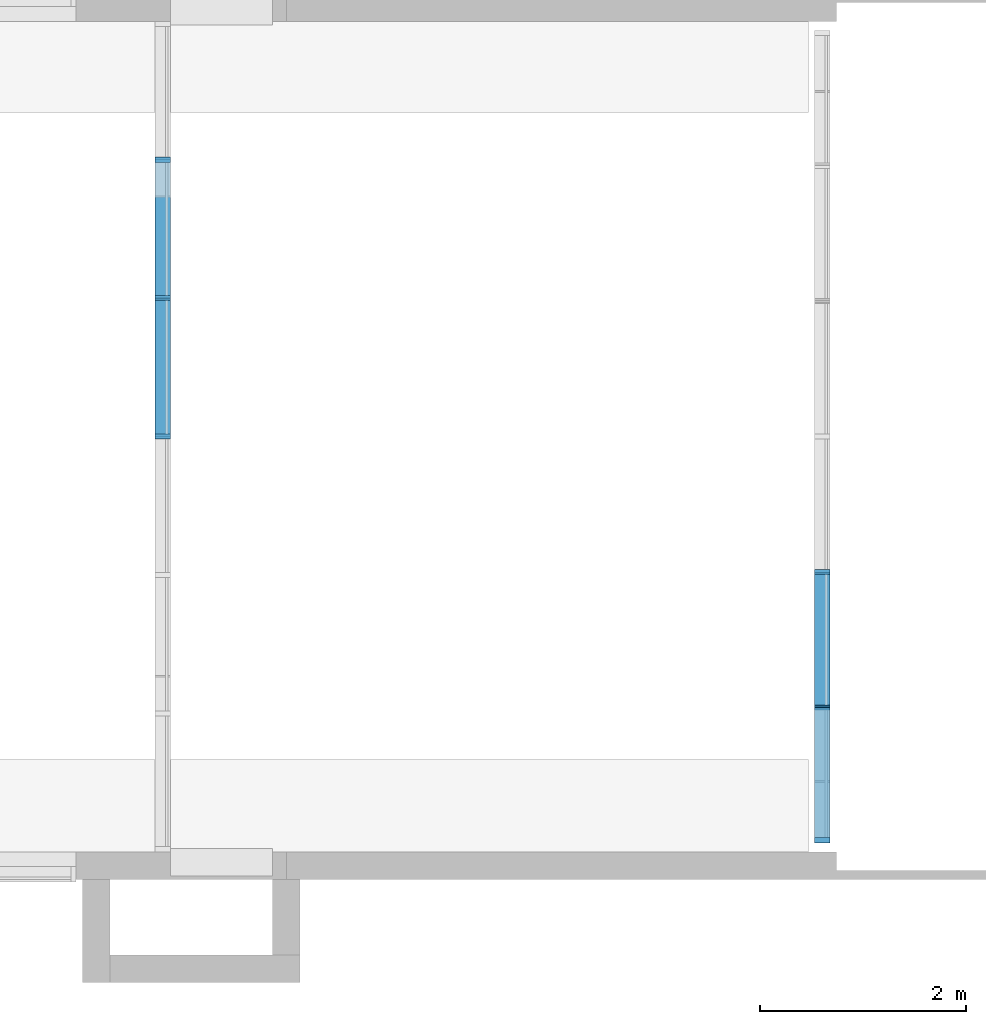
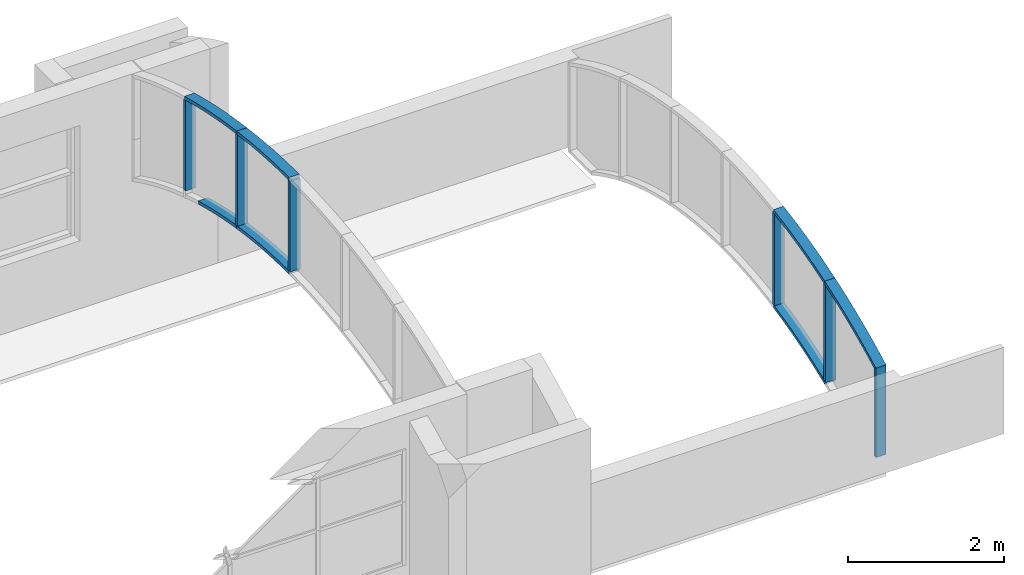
# One storey, part 4 of 14: 16 members, 3 elements without a shape of their own.
"""IFC2X3 building model written with IfcOpenShell, lengths in metres."""

from ifc_helpers import new_model, entity, si_unit, converted_unit, frame, frame_2d, origin, place, context, project, spatial, polyline, circle_curve, parameter, trimmed, segment, composite_curve, outline, extrude, source, transform, mapped, material, type_object, type_shapes, element, aggregate, save


model = new_model("IFC2X3")

# Units and contexts
model_context = context("Model", 3, precision=1e-09, world=origin())
plan_context = context("Plan", 3, precision=1e-09, world=origin())
ifc_project = project(units=[si_unit("LENGTHUNIT", "METRE"), si_unit("AREAUNIT", "SQUARE_METRE"), si_unit("VOLUMEUNIT", "CUBIC_METRE"), converted_unit("PLANEANGLEUNIT", "DEGREE", entity("IfcRatioMeasure", 0.01745329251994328), si_unit("PLANEANGLEUNIT", "RADIAN"), dimensions=[0, 0, 0, 0, 0, 0, 0]), si_unit("TIMEUNIT", "SECOND")], contexts=[model_context, plan_context])

# Site, building, storey
site_placement = place(None, origin())
site = spatial("IfcSite", under=ifc_project, at=site_placement, Name="Default", CompositionType="ELEMENT")
building_placement = place(site_placement, origin())
building = spatial("IfcBuilding", under=site, at=building_placement, CompositionType="ELEMENT")
storey_placement = place(building_placement, frame((0.0, 0.0, 9.25000000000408)))
storey = spatial("IfcBuildingStorey", under=building, at=storey_placement, Name="Roof - Main", CompositionType="ELEMENT", Elevation=9.25000000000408)

# Curtain wall, members
curtain_wall_1_placement = place(storey_placement, origin())
curtain_wall_1 = element("IfcCurtainWall", 1, at=curtain_wall_1_placement, inside=storey, Name="Curtain Wall:Storefront", ObjectType="Curtain Wall:Storefront")
ifc_material = material(Name="Metal - Aluminium")
member_type_1 = type_object("IfcMemberType", Name="50 x 150mm", PredefinedType="MULLION")
shared_shape_1 = source(origin(), model_context, "Body", "SweptSolid", [
    extrude(outline(polyline([(-0.6913336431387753, -0.025), (0.7063048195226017, -0.025), (0.6763624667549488, 0.025), (-0.6913336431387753, 0.025), (-0.6913336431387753, -0.025)])), frame((-0.025, -0.07499999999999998, -0.6913336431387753), z_axis=(0.0, 1.0, 0.0), x_axis=(0.0, 0.0, -1.0)), (0.0, 0.0, 1.0), 0.15),
])
type_shapes(member_type_1, [shared_shape_1])
member_1_placement = place(storey_placement, frame((-15.23000000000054, 27.76009600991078, 0.0), z_axis=(0.0, 0.0, -1.0), x_axis=(0.0, -1.0, 0.0)))
member_1 = element("IfcMember", 2, at=member_1_placement, type_object=member_type_1, material=ifc_material, Name="Rectangular Mullion:50 x 150mm:50 x 150mm", ObjectType="50 x 150mm", context=model_context, shape_type="MappedRepresentation", body=[
    mapped(shared_shape_1, transform((0.0, 0.0, 0.0), scale=1.0)),
])
member_type_2 = type_object("IfcMemberType", Name="50 x 150mm", PredefinedType="MULLION")
shared_shape_2 = source(origin(), model_context, "Body", "SweptSolid", [
    extrude(outline(composite_curve([segment(polyline([(-0.7207281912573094, -0.02466761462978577), (0.7121542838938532, -0.02466761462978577)]), True, "CONTINUOUS"), segment(trimmed(circle_curve(frame_2d((-7.465010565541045, 1.312050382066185), x_axis=(0.9491835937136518, -0.3147229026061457)), 8.285700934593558), [parameter(9.060082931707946)], [parameter(9.29030803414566)], True, "PARAMETER"), True, "CONTINUOUS"), segment(polyline([(0.7174594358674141, 0.008200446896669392), (0.7188196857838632, 0.01676570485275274)]), True, "CONTINUOUS"), segment(polyline([(0.7188196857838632, 0.01676570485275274), (0.7201709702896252, 0.02533238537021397)]), True, "CONTINUOUS"), segment(polyline([(0.7201709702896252, 0.02533238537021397), (-0.7109785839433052, 0.02533238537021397)]), True, "CONTINUOUS"), segment(trimmed(circle_curve(frame_2d((-7.432325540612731, 1.309991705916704), x_axis=(0.9999999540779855, 0.0003030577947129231)), 6.843015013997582), [parameter(348.8666938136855)], [parameter(349.1621254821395)], True, "PARAMETER"), False, "CONTINUOUS"), segment(polyline([(-0.7176919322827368, -0.009307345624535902), (-0.7192056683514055, -0.01698834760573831)]), True, "CONTINUOUS"), segment(polyline([(-0.7192056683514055, -0.01698834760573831), (-0.7207281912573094, -0.02466761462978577)]), True, "CONTINUOUS")], self_intersect=False)), frame((0.0003323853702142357, -0.07499999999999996, -0.7667538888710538), z_axis=(0.0, 1.0, 0.0), x_axis=(0.0, 0.0, -1.0)), (0.0, 0.0, 1.0), 0.15),
])
type_shapes(member_type_2, [shared_shape_2])
member_2_placement = place(storey_placement, frame((-15.23000000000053, 30.38353200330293, 0.7475298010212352), z_axis=(0.0, 0.0, -1.0), x_axis=(0.0, -1.0, 0.0)))
member_2 = element("IfcMember", 3, at=member_2_placement, type_object=member_type_2, material=ifc_material, Name="Rectangular Mullion:50 x 150mm:50 x 150mm", ObjectType="50 x 150mm", context=model_context, shape_type="MappedRepresentation", body=[
    mapped(shared_shape_2, transform((0.0, 0.0, 0.0), scale=1.0)),
])
member_type_3 = type_object("IfcMemberType", Name="50 x 150mm", PredefinedType="MULLION")
shared_shape_3 = source(origin(), model_context, "Body", "SweptSolid", [
    extrude(outline(composite_curve([segment(polyline([(-0.7626003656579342, -0.02433269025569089), (0.7451520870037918, -0.02433269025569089)]), True, "CONTINUOUS"), segment(trimmed(circle_curve(frame_2d((-7.105875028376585, 2.624103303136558), x_axis=(0.8815533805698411, -0.4720843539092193)), 8.285700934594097), [parameter(9.528566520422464)], [parameter(9.825595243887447)], True, "PARAMETER"), True, "CONTINUOUS"), segment(polyline([(0.7587763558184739, 0.01640343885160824), (0.7603105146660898, 0.02103492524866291)]), True, "CONTINUOUS"), segment(polyline([(0.7603105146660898, 0.02103492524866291), (0.7618419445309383, 0.02566730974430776)]), True, "CONTINUOUS"), segment(polyline([(0.7618419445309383, 0.02566730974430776), (-0.7418647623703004, 0.02566730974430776)]), True, "CONTINUOUS"), segment(trimmed(circle_curve(frame_2d((-7.073190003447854, 2.622044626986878), x_axis=(0.9812390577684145, -0.1927949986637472)), 6.843015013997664), [parameter(348.4167488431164)], [parameter(348.8181764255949)], True, "PARAMETER"), False, "CONTINUOUS"), segment(polyline([(-0.7602108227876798, -0.01862732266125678), (-0.7614049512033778, -0.02148028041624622)]), True, "CONTINUOUS"), segment(polyline([(-0.7614049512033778, -0.02148028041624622), (-0.7626003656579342, -0.0243326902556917)]), True, "CONTINUOUS")], self_intersect=False)), frame((0.0006673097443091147, -0.07499999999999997, -0.8063380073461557), z_axis=(0.0, 1.0, 0.0), x_axis=(0.0, 0.0, -1.0)), (0.0, 0.0, 1.0), 0.15),
])
type_shapes(member_type_3, [shared_shape_3])
member_3_placement = place(storey_placement, frame((-15.23000000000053, 29.07181400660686, 0.3488101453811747), z_axis=(0.0, 0.0, -1.0), x_axis=(0.0, -1.0, 0.0)))
member_3 = element("IfcMember", 4, at=member_3_placement, type_object=member_type_3, material=ifc_material, Name="Rectangular Mullion:50 x 150mm:50 x 150mm", ObjectType="50 x 150mm", context=model_context, shape_type="MappedRepresentation", body=[
    mapped(shared_shape_3, transform((0.0, 0.0, 0.0), scale=1.0)),
])
member_type_4 = type_object("IfcMemberType", Name="50 x 150mm", PredefinedType="MULLION")
shared_shape_4 = source(origin(), model_context, "Body", "SweptSolid", [
    extrude(outline(composite_curve([segment(polyline([(-0.0846862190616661, -0.7017231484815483), (-0.0346862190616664, -0.7017231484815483)]), True, "CONTINUOUS"), segment(trimmed(circle_curve(frame_2d((8.251014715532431, -0.7017231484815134), x_axis=(-0.985331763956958, 0.1706496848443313)), 8.285700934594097), [parameter(0.2072769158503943)], [parameter(9.825595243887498)], True, "PARAMETER"), False, "CONTINUOUS"), segment(polyline([(0.0817886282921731, 0.6826847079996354), (0.03758380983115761, 0.7207615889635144)]), True, "CONTINUOUS"), segment(trimmed(circle_curve(frame_2d((8.251014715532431, -0.7017231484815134), x_axis=(-0.985331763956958, 0.1706496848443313)), 8.335700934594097), [parameter(3.562221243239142e-13)], [parameter(9.825595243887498)], True, "PARAMETER"), True, "CONTINUOUS")], self_intersect=False)), frame((-0.08596521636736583, -0.07499999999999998, -0.7166029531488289), z_axis=(0.0, 1.0, 0.0), x_axis=(-0.985331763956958, 0.0, 0.1706496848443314)), (0.0, 0.0, 1.0), 0.15),
])
type_shapes(member_type_4, [shared_shape_4])
member_4_placement = place(storey_placement, frame((-15.23000000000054, 27.76009600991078, 1.397638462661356), z_axis=(0.0, -0.8815533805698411, -0.4720843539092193), x_axis=(0.0, -0.4720843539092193, 0.8815533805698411)))
member_4 = element("IfcMember", 5, at=member_4_placement, type_object=member_type_4, material=ifc_material, Name="Rectangular Mullion:50 x 150mm:50 x 150mm", ObjectType="50 x 150mm", context=model_context, shape_type="MappedRepresentation", body=[
    mapped(shared_shape_4, transform((0.0, 0.0, 0.0), scale=1.0)),
])
member_type_5 = type_object("IfcMemberType", Name="50 x 150mm", PredefinedType="MULLION")
shared_shape_5 = source(origin(), model_context, "Body", "SweptSolid", [
    extrude(outline(composite_curve([segment(polyline([(-0.07950557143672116, -0.6708268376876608), (-0.02950557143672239, -0.6708268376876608)]), True, "CONTINUOUS"), segment(trimmed(circle_curve(frame_2d((8.256195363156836, -0.6708268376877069), x_axis=(-0.9868830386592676, 0.1614368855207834)), 8.285700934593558), [parameter(3.562221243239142e-13)], [parameter(9.29030803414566)], True, "PARAMETER"), False, "CONTINUOUS"), segment(polyline([(0.0791776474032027, 0.6667909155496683), (0.02983349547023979, 0.6748627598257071)]), True, "CONTINUOUS"), segment(trimmed(circle_curve(frame_2d((8.256195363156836, -0.6708268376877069), x_axis=(-0.9868830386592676, 0.1614368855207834)), 8.335700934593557), [parameter(3.562221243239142e-13)], [parameter(9.29030803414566)], True, "PARAMETER"), True, "CONTINUOUS")], self_intersect=False)), frame((-0.07950557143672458, -0.07499999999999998, -0.6708268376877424), z_axis=(0.0, 1.0, 0.0), x_axis=(-0.9868830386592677, 0.0, 0.161436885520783)), (0.0, 0.0, 1.0), 0.1499999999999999),
])
type_shapes(member_type_5, [shared_shape_5])
member_5_placement = place(storey_placement, frame((-15.23000000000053, 29.07181400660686, 1.961383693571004), z_axis=(0.0, -0.9491835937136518, -0.3147229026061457), x_axis=(0.0, -0.3147229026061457, 0.9491835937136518)))
member_5 = element("IfcMember", 6, at=member_5_placement, type_object=member_type_5, material=ifc_material, Name="Rectangular Mullion:50 x 150mm:50 x 150mm", ObjectType="50 x 150mm", context=model_context, shape_type="MappedRepresentation", body=[
    mapped(shared_shape_5, transform((0.0, 0.0, 0.0), scale=1.0)),
])
member_type_6 = type_object("IfcMemberType", Name="50 x 150mm", PredefinedType="MULLION")
shared_shape_6 = source(origin(), model_context, "Body", "SweptSolid", [
    extrude(outline(composite_curve([segment(polyline([(0.04442789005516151, -0.6844999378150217), (0.09442789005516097, -0.6844999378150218)]), True, "CONTINUOUS"), segment(trimmed(circle_curve(frame_2d((-6.748587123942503, -0.684499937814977), x_axis=(0.9796339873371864, 0.2007915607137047)), 6.843015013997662), [parameter(348.4167488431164)], [parameter(359.9999999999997)], True, "PARAMETER"), True, "CONTINUOUS"), segment(polyline([(-0.0449370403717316, 0.6895197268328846), (-0.09391873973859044, 0.6794801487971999)]), True, "CONTINUOUS"), segment(trimmed(circle_curve(frame_2d((-6.748587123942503, -0.684499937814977), x_axis=(0.9796339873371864, 0.2007915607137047)), 6.793015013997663), [parameter(348.4167488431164)], [parameter(359.9999999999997)], True, "PARAMETER"), False, "CONTINUOUS")], self_intersect=False)), frame((0.04442789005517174, -0.07499999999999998, -0.6844999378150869), z_axis=(0.0, 1.0, 0.0), x_axis=(-0.9796339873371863, 0.0, -0.2007915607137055)), (0.0, 0.0, 1.0), 0.1499999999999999),
])
type_shapes(member_type_6, [shared_shape_6])
member_6_placement = place(storey_placement, frame((-15.23000000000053, 30.38353200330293, 0.7475298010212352), z_axis=(0.0, 0.9812390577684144, 0.1927949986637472), x_axis=(0.0, 0.1927949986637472, -0.9812390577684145)))
member_6 = element("IfcMember", 7, at=member_6_placement, type_object=member_type_6, material=ifc_material, Name="Rectangular Mullion:50 x 150mm:50 x 150mm", ObjectType="50 x 150mm", context=model_context, shape_type="MappedRepresentation", body=[
    mapped(shared_shape_6, transform((0.0, 0.0, 0.0), scale=1.0)),
])
aggregate(curtain_wall_1, [member_1, member_2, member_3, member_4, member_5, member_6])

curtain_wall_2_placement = place(storey_placement, origin())
curtain_wall_2 = element("IfcCurtainWall", 8, at=curtain_wall_2_placement, inside=storey, Name="Curtain Wall:Storefront", ObjectType="Curtain Wall:Storefront")
member_type_7 = type_object("IfcMemberType", Name="50 x 150mm", PredefinedType="MULLION")
shared_shape_7 = source(origin(), model_context, "Body", "SweptSolid", [
    extrude(outline(composite_curve([segment(polyline([(-0.7084224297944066, -0.02521624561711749), (0.715674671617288, -0.02521624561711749)]), True, "CONTINUOUS"), segment(trimmed(circle_curve(frame_2d((-9.329808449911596, -1.341126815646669), x_axis=(1.0, 1.609420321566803e-05)), 10.13130553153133), [parameter(7.462058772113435)], [parameter(7.567102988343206)], True, "PARAMETER"), True, "CONTINUOUS"), segment(polyline([(0.7132452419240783, -0.006801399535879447), (0.7111341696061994, 0.008992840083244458)]), True, "CONTINUOUS"), segment(polyline([(0.7111341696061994, 0.008992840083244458), (0.7089982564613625, 0.02478375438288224)]), True, "CONTINUOUS"), segment(polyline([(0.7089982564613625, 0.02478375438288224), (-0.7162064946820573, 0.02478375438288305)]), True, "CONTINUOUS"), segment(trimmed(circle_curve(frame_2d((-9.325491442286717, -1.341126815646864), x_axis=(0.9636636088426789, 0.2671187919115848)), 8.71696615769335), [parameter(353.407383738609)], [parameter(353.5222610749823)], True, "PARAMETER"), False, "CONTINUOUS"), segment(polyline([(-0.7134851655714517, 0.007519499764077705), (-0.710938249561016, -0.008845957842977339)]), True, "CONTINUOUS"), segment(polyline([(-0.710938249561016, -0.008845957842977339), (-0.7084224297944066, -0.02521624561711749)]), True, "CONTINUOUS")], self_intersect=False)), frame((-0.0002162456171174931, -0.07499999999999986, -0.7628831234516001), z_axis=(0.0, 1.0, 0.0), x_axis=(0.0, 0.0, -1.0)), (0.0, 0.0, 1.0), 0.15),
])
type_shapes(member_type_7, [shared_shape_7])
member_7_placement = place(storey_placement, frame((-21.61957995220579, 33.03599671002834, 2.61056843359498), z_axis=(0.0, 0.0, -1.0), x_axis=(0.0, -1.0, 0.0)))
member_7 = element("IfcMember", 9, at=member_7_placement, type_object=member_type_7, material=ifc_material, Name="Rectangular Mullion:50 x 150mm:50 x 150mm", ObjectType="50 x 150mm", context=model_context, shape_type="MappedRepresentation", body=[
    mapped(shared_shape_7, transform((0.0, 0.0, 0.0), scale=1.0)),
])
member_type_8 = type_object("IfcMemberType", Name="50 x 150mm", PredefinedType="MULLION")
shared_shape_8 = source(origin(), model_context, "Body", "SweptSolid", [
    extrude(outline(composite_curve([segment(polyline([(-0.7050243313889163, -0.02500002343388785), (0.7050029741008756, -0.02500002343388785)]), True, "CONTINUOUS"), segment(trimmed(circle_curve(frame_2d((-9.426272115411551, -0.0001638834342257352), x_axis=(0.9912934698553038, -0.1316710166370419)), 10.13130553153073), [parameter(7.425708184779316)], [parameter(7.567086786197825)], True, "PARAMETER"), True, "CONTINUOUS"), segment(trimmed(circle_curve(frame_2d((-9.426272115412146, -0.000163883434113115), x_axis=(1.0, 1.609420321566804e-05)), 10.13130553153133), [parameter(0.0)], [parameter(0.1413877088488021)], True, "PARAMETER"), True, "CONTINUOUS"), segment(polyline([(0.7050021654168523, 0.02499997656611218), (-0.7050252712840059, 0.02499997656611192)]), True, "CONTINUOUS"), segment(trimmed(circle_curve(frame_2d((-9.421955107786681, -0.0001638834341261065), x_axis=(0.9879591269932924, 0.1547151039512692)), 8.716966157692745), [parameter(351.1008096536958)], [parameter(351.2651262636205)], True, "PARAMETER"), False, "CONTINUOUS"), segment(trimmed(circle_curve(frame_2d((-9.42195510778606, -0.000163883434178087), x_axis=(1.0, 1.890626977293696e-05)), 8.716966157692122), [parameter(359.8356709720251)], [parameter(0.0)], True, "PARAMETER"), False, "CONTINUOUS")], self_intersect=False)), frame((-2.343388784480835e-08, -0.07500000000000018, -0.7549889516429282), z_axis=(0.0, 1.0, 0.0), x_axis=(0.0, 0.0, -1.0)), (0.0, 0.0, 1.0), 0.15),
])
type_shapes(member_type_8, [shared_shape_8])
member_8_placement = place(storey_placement, frame((-21.61957995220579, 31.69524999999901, 2.714926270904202), z_axis=(0.0, 0.0, -1.0), x_axis=(0.0, -1.0, 0.0)))
member_8 = element("IfcMember", 10, at=member_8_placement, type_object=member_type_8, material=ifc_material, Name="Rectangular Mullion:50 x 150mm:50 x 150mm", ObjectType="50 x 150mm", context=model_context, shape_type="MappedRepresentation", body=[
    mapped(shared_shape_8, transform((0.0, 0.0, 0.0), scale=1.0)),
])
member_type_9 = type_object("IfcMemberType", Name="50 x 150mm", PredefinedType="MULLION")
shared_shape_9 = source(origin(), model_context, "Body", "SweptSolid", [
    extrude(outline(composite_curve([segment(polyline([(-0.07082790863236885, -0.6806923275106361), (-0.0208279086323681, -0.6806923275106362)]), True, "CONTINUOUS"), segment(trimmed(circle_curve(frame_2d((10.11047762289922, -0.6806923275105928), x_axis=(-0.9909754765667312, 0.134043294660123)), 10.13130553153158), [parameter(3.562221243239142e-13)], [parameter(7.703301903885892)], True, "PARAMETER"), False, "CONTINUOUS"), segment(polyline([(0.07060229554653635, 0.6773412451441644), (0.02105352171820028, 0.6840434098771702)]), True, "CONTINUOUS"), segment(trimmed(circle_curve(frame_2d((10.11047762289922, -0.6806923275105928), x_axis=(-0.9909754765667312, 0.134043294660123)), 10.18130553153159), [parameter(3.562221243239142e-13)], [parameter(7.703301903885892)], True, "PARAMETER"), True, "CONTINUOUS")], self_intersect=False)), frame((-0.07082790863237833, -0.075, -0.6806923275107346), z_axis=(0.0, 1.0, 0.0), x_axis=(-0.9909754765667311, 0.0, 0.1340432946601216)), (0.0, 0.0, 1.0), 0.15),
])
type_shapes(member_type_9, [shared_shape_9])
member_9_placement = place(storey_placement, frame((-21.61957995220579, 33.03599671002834, 4.136261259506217), z_axis=(0.0, -0.9912891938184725, 0.1317032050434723), x_axis=(0.0, 0.1317032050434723, 0.9912891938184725)))
member_9 = element("IfcMember", 11, at=member_9_placement, type_object=member_type_9, material=ifc_material, Name="Rectangular Mullion:50 x 150mm:50 x 150mm", ObjectType="50 x 150mm", context=model_context, shape_type="MappedRepresentation", body=[
    mapped(shared_shape_9, transform((0.0, 0.0, 0.0), scale=1.0)),
])
member_type_10 = type_object("IfcMemberType", Name="50 x 150mm", PredefinedType="MULLION")
shared_shape_10 = source(origin(), model_context, "Body", "SweptSolid", [
    extrude(outline(composite_curve([segment(polyline([(-0.069224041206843, -0.6687279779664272), (-0.01922404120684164, -0.6687279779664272)]), True, "CONTINUOUS"), segment(trimmed(circle_curve(frame_2d((10.11208149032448, -0.6687279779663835), x_axis=(-0.9912913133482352, 0.1316872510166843)), 10.13130553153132), [parameter(3.562221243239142e-13)], [parameter(7.567102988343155)], True, "PARAMETER"), False, "CONTINUOUS"), segment(polyline([(0.06900632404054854, 0.6654357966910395), (0.01944175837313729, 0.6720201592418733)]), True, "CONTINUOUS"), segment(trimmed(circle_curve(frame_2d((10.11208149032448, -0.6687279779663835), x_axis=(-0.9912913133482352, 0.1316872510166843)), 10.18130553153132), [parameter(3.562221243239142e-13)], [parameter(7.567102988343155)], True, "PARAMETER"), True, "CONTINUOUS")], self_intersect=False)), frame((-0.06922404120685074, -0.07499999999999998, -0.6687279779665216), z_axis=(0.0, 1.0, 0.0), x_axis=(-0.9912913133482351, 0.0, 0.1316872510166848)), (0.0, 0.0, 1.0), 0.1499999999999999),
])
type_shapes(member_type_10, [shared_shape_10])
member_10_placement = place(storey_placement, frame((-21.61957995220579, 31.69524999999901, 4.224948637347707), z_axis=(0.0, -1.0, 1.609420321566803e-05), x_axis=(0.0, 1.609420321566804e-05, 1.0)))
member_10 = element("IfcMember", 12, at=member_10_placement, type_object=member_type_10, material=ifc_material, Name="Rectangular Mullion:50 x 150mm:50 x 150mm", ObjectType="50 x 150mm", context=model_context, shape_type="MappedRepresentation", body=[
    mapped(shared_shape_10, transform((0.0, 0.0, 0.0), scale=1.0)),
])
member_type_11 = type_object("IfcMemberType", Name="50 x 150mm", PredefinedType="MULLION")
shared_shape_11 = source(origin(), model_context, "Body", "SweptSolid", [
    extrude(outline(composite_curve([segment(polyline([(0.02731671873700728, -0.6723080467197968), (0.07731671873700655, -0.6723080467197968)]), True, "CONTINUOUS"), segment(trimmed(circle_curve(frame_2d((-8.639649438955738, -0.6723080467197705), x_axis=(0.9879620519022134, 0.1546964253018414)), 8.716966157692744), [parameter(351.1008096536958)], [parameter(359.9999999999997)], True, "PARAMETER"), True, "CONTINUOUS"), segment(polyline([(-0.02761766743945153, 0.6761754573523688), (-0.07701577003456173, 0.6684406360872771)]), True, "CONTINUOUS"), segment(trimmed(circle_curve(frame_2d((-8.639649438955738, -0.6723080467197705), x_axis=(0.9879620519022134, 0.1546964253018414)), 8.666966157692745), [parameter(351.1008096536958)], [parameter(359.9999999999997)], True, "PARAMETER"), False, "CONTINUOUS")], self_intersect=False)), frame((0.02731671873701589, -0.07500000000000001, -0.6723080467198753), z_axis=(0.0, 1.0, 0.0), x_axis=(-0.9879620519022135, 0.0, -0.1546964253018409)), (0.0, 0.0, 1.0), 0.1499999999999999),
])
type_shapes(member_type_11, [shared_shape_11])
member_11_placement = place(storey_placement, frame((-21.61957995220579, 33.03599671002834, 2.61056843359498), z_axis=(0.0, 0.9879591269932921, -0.1547151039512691), x_axis=(0.0, -0.1547151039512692, -0.9879591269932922)))
member_11 = element("IfcMember", 13, at=member_11_placement, type_object=member_type_11, material=ifc_material, Name="Rectangular Mullion:50 x 150mm:50 x 150mm", ObjectType="50 x 150mm", context=model_context, shape_type="MappedRepresentation", body=[
    mapped(shared_shape_11, transform((0.0, 0.0, 0.0), scale=1.0)),
])
member_type_12 = type_object("IfcMemberType", Name="50 x 150mm", PredefinedType="MULLION")
shared_shape_12 = source(origin(), model_context, "Body", "SweptSolid", [
    extrude(outline(composite_curve([segment(polyline([(0.003737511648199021, -0.4989585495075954), (0.05373751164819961, -0.4989585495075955)]), True, "CONTINUOUS"), segment(trimmed(circle_curve(frame_2d((-8.663228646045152, -0.498958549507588), x_axis=(0.9933875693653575, 0.114809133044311)), 8.716966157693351), [parameter(353.407383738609)], [parameter(359.9999999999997)], True, "PARAMETER"), True, "CONTINUOUS"), segment(polyline([(-0.00390282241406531, 0.5018287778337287), (-0.05357220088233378, 0.4960883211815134)]), True, "CONTINUOUS"), segment(trimmed(circle_curve(frame_2d((-8.663228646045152, -0.498958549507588), x_axis=(0.9933875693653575, 0.114809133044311)), 8.66696615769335), [parameter(353.407383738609)], [parameter(359.9999999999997)], True, "PARAMETER"), False, "CONTINUOUS")], self_intersect=False)), frame((0.003737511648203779, -0.07500000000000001, -0.4989585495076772), z_axis=(0.0, 1.0, 0.0), x_axis=(-0.9933875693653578, 0.0, -0.1148091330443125)), (0.0, 0.0, 1.0), 0.15),
])
type_shapes(member_type_12, [shared_shape_12])
member_12_placement = place(storey_placement, frame((-21.61957995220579, 34.01019566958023, 2.400000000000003), z_axis=(0.0, 0.9636636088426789, -0.2671187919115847), x_axis=(0.0, -0.2671187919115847, -0.9636636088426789)))
member_12 = element("IfcMember", 14, at=member_12_placement, type_object=member_type_12, material=ifc_material, Name="Rectangular Mullion:50 x 150mm:50 x 150mm", ObjectType="50 x 150mm", context=model_context, shape_type="MappedRepresentation", body=[
    mapped(shared_shape_12, transform((0.0, 0.0, 0.0), scale=1.0)),
])
member_type_13 = type_object("IfcMemberType", Name="50 x 150mm", PredefinedType="MULLION")
shared_shape_13 = source(origin(), model_context, "Body", "SweptSolid", [
    extrude(outline(composite_curve([segment(polyline([(-0.9427185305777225, -0.02379181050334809), (0.4777095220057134, -0.02379181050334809)]), True, "CONTINUOUS"), segment(trimmed(circle_curve(frame_2d((-9.299075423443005, -2.680449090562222), x_axis=(0.9912891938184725, 0.1317032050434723)), 10.13130553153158), [parameter(7.633959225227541)], [parameter(7.703301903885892)], True, "PARAMETER"), True, "CONTINUOUS"), segment(polyline([(0.4744871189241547, -0.01196131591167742), (0.4692549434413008, 0.007128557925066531)]), True, "CONTINUOUS"), segment(polyline([(0.4692549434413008, 0.007128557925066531), (0.4639854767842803, 0.02620818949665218)]), True, "CONTINUOUS"), segment(polyline([(0.4639854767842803, 0.02620818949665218), (-0.9427185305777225, 0.02620818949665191)]), True, "CONTINUOUS"), segment(polyline([(-0.9427185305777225, 0.02620818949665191), (-0.9427185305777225, -0.02379181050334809)]), True, "CONTINUOUS")], self_intersect=False)), frame((0.00120818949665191, -0.07499999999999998, -0.9427185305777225), z_axis=(0.0, 1.0, 0.0), x_axis=(0.0, 0.0, -1.0)), (0.0, 0.0, 1.0), 0.15),
])
type_shapes(member_type_13, [shared_shape_13])
member_13_placement = place(storey_placement, frame((-21.61957995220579, 34.37674342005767, 2.4), z_axis=(0.0, 0.0, -1.0), x_axis=(0.0, -1.0, 0.0)))
member_13 = element("IfcMember", 15, at=member_13_placement, type_object=member_type_13, material=ifc_material, Name="Rectangular Mullion:50 x 150mm:50 x 150mm", ObjectType="50 x 150mm", context=model_context, shape_type="MappedRepresentation", body=[
    mapped(shared_shape_13, transform((0.0, 0.0, 0.0), scale=1.0)),
])
aggregate(curtain_wall_2, [member_7, member_8, member_9, member_10, member_11, member_12, member_13])

curtain_wall_3_placement = place(storey_placement, origin())
curtain_wall_3 = element("IfcCurtainWall", 16, at=curtain_wall_3_placement, inside=storey, Name="Curtain Wall:Storefront", ObjectType="Curtain Wall:Storefront")
member_type_14 = type_object("IfcMemberType", Name="50 x 150mm", PredefinedType="MULLION")
shared_shape_14 = source(origin(), model_context, "Body", "SweptSolid", [
    extrude(outline(polyline([(-0.7063048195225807, -0.025), (0.6913336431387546, -0.025), (0.6913336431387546, 0.025), (-0.6763624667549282, 0.025), (-0.7063048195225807, -0.025)])), frame((-0.025, -0.07499999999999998, -0.7063048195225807), z_axis=(0.0, 1.0, 0.0), x_axis=(0.0, 0.0, -1.0)), (0.0, 0.0, 1.0), 0.15),
])
type_shapes(member_type_14, [shared_shape_14])
member_14_placement = place(storey_placement, frame((-15.23000000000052, 27.76009600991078, 1.397638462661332), z_axis=(0.0, 0.0, 1.0), x_axis=(0.0, -1.0, 0.0)))
member_14 = element("IfcMember", 17, at=member_14_placement, type_object=member_type_14, material=ifc_material, Name="Rectangular Mullion:50 x 150mm:50 x 150mm", ObjectType="50 x 150mm", context=model_context, shape_type="MappedRepresentation", body=[
    mapped(shared_shape_14, transform((0.0, 0.0, 0.0), scale=1.0)),
])
member_type_15 = type_object("IfcMemberType", Name="50 x 150mm", PredefinedType="MULLION")
shared_shape_15 = source(origin(), model_context, "Body", "SweptSolid", [
    extrude(outline(composite_curve([segment(polyline([(-0.742957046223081, -0.02567602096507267), (0.7624396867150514, -0.02567602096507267)]), True, "CONTINUOUS"), segment(trimmed(circle_curve(frame_2d((-7.105277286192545, -2.624112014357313), x_axis=(0.9875410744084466, 0.1573614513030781)), 8.285700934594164), [parameter(9.22283189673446)], [parameter(9.290308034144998)], True, "PARAMETER"), True, "CONTINUOUS"), segment(polyline([(0.7593740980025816, -0.01641215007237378), (0.7525883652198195, 0.003964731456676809)]), True, "CONTINUOUS"), segment(polyline([(0.7525883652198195, 0.003964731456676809), (0.7457498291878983, 0.02432397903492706)]), True, "CONTINUOUS"), segment(polyline([(0.7457498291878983, 0.02432397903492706), (-0.7637308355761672, 0.02432397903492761)]), True, "CONTINUOUS"), segment(trimmed(circle_curve(frame_2d((-7.072592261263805, -2.626170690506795), x_axis=(0.8711951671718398, 0.4909368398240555)), 6.843015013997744), [parameter(353.3346662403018)], [parameter(353.3861960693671)], True, "PARAMETER"), False, "CONTINUOUS"), segment(polyline([(-0.7613496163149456, 0.01864891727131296), (-0.7521144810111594, -0.003497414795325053)]), True, "CONTINUOUS"), segment(polyline([(-0.7521144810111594, -0.003497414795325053), (-0.742957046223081, -0.0256760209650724)]), True, "CONTINUOUS")], self_intersect=False)), frame((-0.0006760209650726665, -0.07499999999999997, -0.8074641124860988), z_axis=(0.0, 1.0, 0.0), x_axis=(0.0, 0.0, -1.0)), (0.0, 0.0, 1.0), 0.15),
])
type_shapes(member_type_15, [shared_shape_15])
member_15_placement = place(storey_placement, frame((-15.23000000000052, 29.07181400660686, 0.3470862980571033), z_axis=(0.0, 0.0, -1.0), x_axis=(0.0, 1.0, 0.0)))
member_15 = element("IfcMember", 18, at=member_15_placement, type_object=member_type_15, material=ifc_material, Name="Rectangular Mullion:50 x 150mm:50 x 150mm", ObjectType="50 x 150mm", context=model_context, shape_type="MappedRepresentation", body=[
    mapped(shared_shape_15, transform((0.0, 0.0, 0.0), scale=1.0)),
])
member_type_16 = type_object("IfcMemberType", Name="50 x 150mm", PredefinedType="MULLION")
shared_shape_16 = source(origin(), model_context, "Body", "SweptSolid", [
    extrude(outline(composite_curve([segment(trimmed(circle_curve(frame_2d((6.709519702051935, 4.853246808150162), x_axis=(-0.7576703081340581, -0.6526374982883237)), 8.335700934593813), [parameter(350.1744047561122)], [parameter(359.9999999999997)], True, "PARAMETER"), True, "CONTINUOUS"), segment(polyline([(0.3938066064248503, -0.5869441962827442), (0.431690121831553, -0.5543123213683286)]), True, "CONTINUOUS"), segment(trimmed(circle_curve(frame_2d((6.709519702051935, 4.853246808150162), x_axis=(-0.7576703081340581, -0.6526374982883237)), 8.285700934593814), [parameter(350.3816816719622)], [parameter(359.9999999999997)], True, "PARAMETER"), False, "CONTINUOUS"), segment(polyline([(-0.3835768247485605, 0.5706282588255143), (-0.4419199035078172, 0.5706282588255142)]), True, "CONTINUOUS")], self_intersect=False)), frame((-0.08468621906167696, -0.07499999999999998, -0.7017231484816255), z_axis=(0.0, -1.0, 0.0), x_axis=(-0.757670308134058, 0.0, 0.6526374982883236)), (0.0, 0.0, -1.0), 0.15),
])
type_shapes(member_type_16, [shared_shape_16])
member_16_placement = place(storey_placement, frame((-15.23000000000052, 29.07181400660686, 1.961383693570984), z_axis=(0.0, 0.9491835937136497, 0.3147229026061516), x_axis=(0.0, -0.3147229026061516, 0.9491835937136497)))
member_16 = element("IfcMember", 19, at=member_16_placement, type_object=member_type_16, material=ifc_material, Name="Rectangular Mullion:50 x 150mm:50 x 150mm", ObjectType="50 x 150mm", context=model_context, shape_type="MappedRepresentation", body=[
    mapped(shared_shape_16, transform((0.0, 0.0, 0.0), scale=1.0)),
])
aggregate(curtain_wall_3, [member_14, member_15, member_16])

save(model, "model.ifc")
